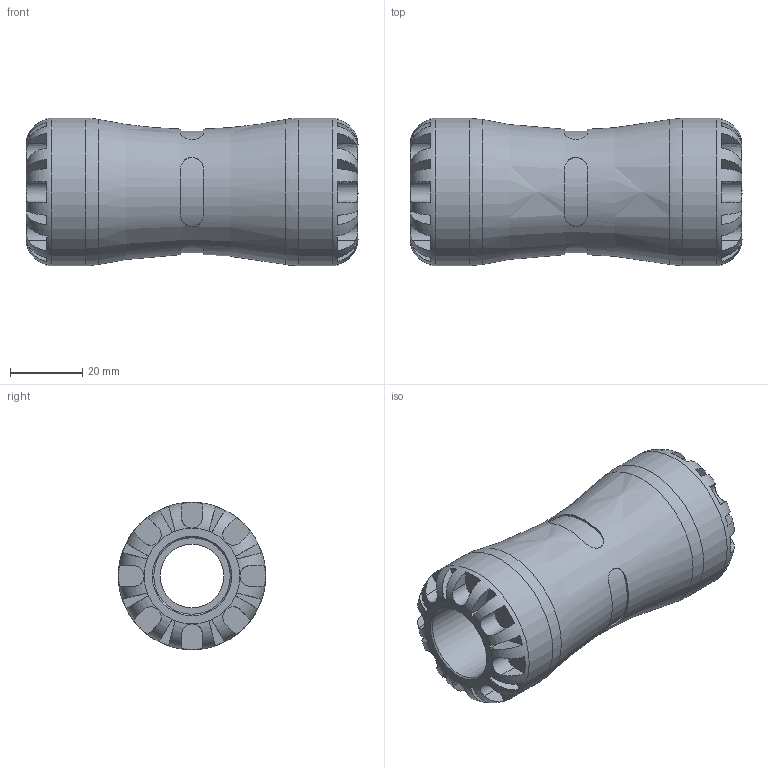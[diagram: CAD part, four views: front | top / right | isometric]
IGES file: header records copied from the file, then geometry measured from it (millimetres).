
Global section: file name: 1001A6005.ipt; native system: Autodesk Inventor 2019; preprocessor: unknown; author: KIM; date: 20210902.120210; units: inch
Bounding box: 91.95 x 40.89 x 40.89 mm (x, y, z)
Volume: 68708.4 mm3; surface area: 20542.9 mm2
Topology: 1 solids, 1 shells, 164 faces, 427 edges, 270 vertices
Faces by surface type: plane 108, revolution 34, cylinder 22
Full cylindrical faces by diameter (mm): 40.894 x2
